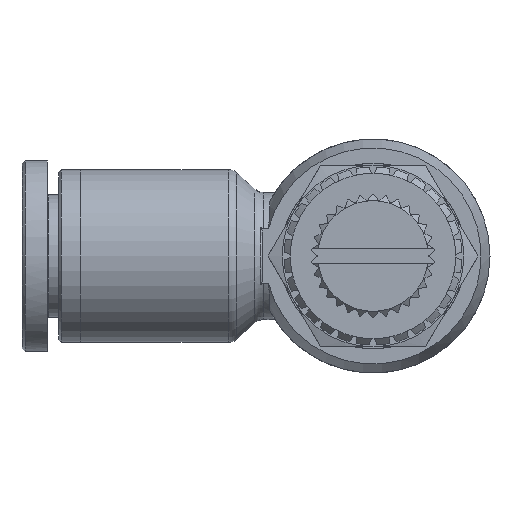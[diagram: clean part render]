
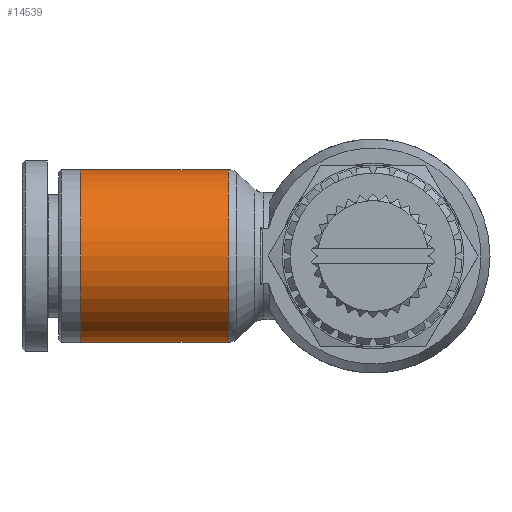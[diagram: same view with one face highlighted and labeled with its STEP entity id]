
A CAD part, left-side view. The second image highlights one B-rep face of the part: STEP entity #14539.
In plain terms, the highlighted cylindrical face has radius 6.8 mm (diameter 13.6 mm), a full revolution.
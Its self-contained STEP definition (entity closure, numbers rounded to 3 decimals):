
#14505=CARTESIAN_POINT('',(-11.384,6.8,0.0));
#14506=VERTEX_POINT('',#14505);
#14507=CARTESIAN_POINT('',(-11.384,0.,0.0));
#14508=DIRECTION('',(1.0,0.0,0.0));
#14509=DIRECTION('',(0.0,-1.0,0.0));
#14510=AXIS2_PLACEMENT_3D('',#14507,#14508,#14509);
#14511=CIRCLE('',#14510,6.8);
#14512=EDGE_CURVE('',#14506,#14506,#14511,.T.);
#14520=CARTESIAN_POINT('',(-17.0,0.,0.0));
#14521=DIRECTION('',(1.0,0.,0.0));
#14522=DIRECTION('',(0.0,1.0,0.0));
#14523=AXIS2_PLACEMENT_3D('',#14520,#14521,#14522);
#14524=CYLINDRICAL_SURFACE('',#14523,6.8);
#14525=CARTESIAN_POINT('',(-23.,6.8,0.0));
#14526=VERTEX_POINT('',#14525);
#14527=CARTESIAN_POINT('',(-23.,0.,0.0));
#14528=DIRECTION('',(1.0,0.0,0.0));
#14529=DIRECTION('',(0.0,1.0,0.0));
#14530=AXIS2_PLACEMENT_3D('',#14527,#14528,#14529);
#14531=CIRCLE('',#14530,6.8);
#14532=EDGE_CURVE('',#14526,#14526,#14531,.T.);
#14533=ORIENTED_EDGE('',*,*,#14532,.T.);
#14534=EDGE_LOOP('',(#14533));
#14535=FACE_OUTER_BOUND('',#14534,.T.);
#14536=ORIENTED_EDGE('',*,*,#14512,.F.);
#14537=EDGE_LOOP('',(#14536));
#14538=FACE_BOUND('',#14537,.T.);
#14539=ADVANCED_FACE('',(#14535,#14538),#14524,.T.);
